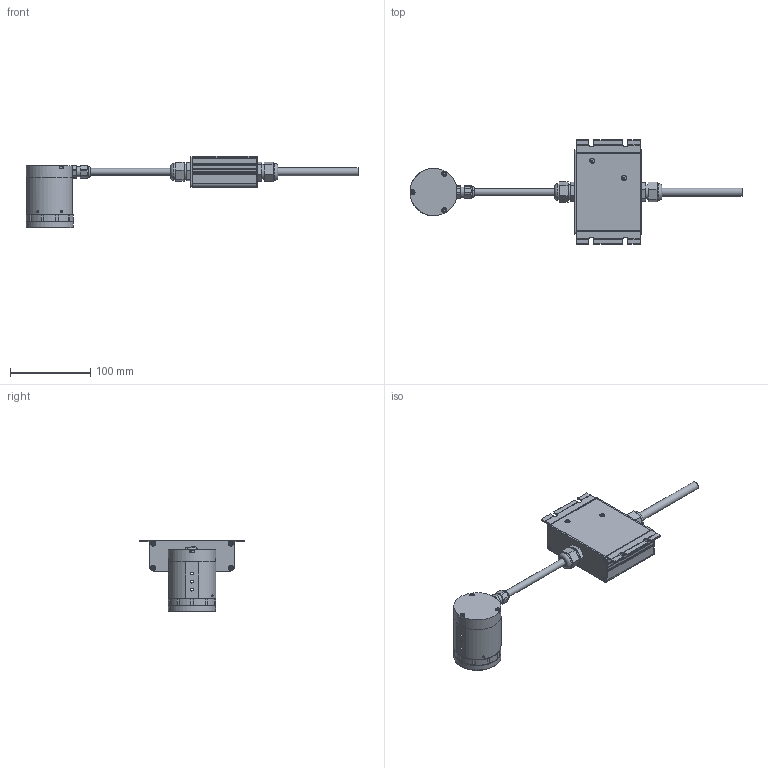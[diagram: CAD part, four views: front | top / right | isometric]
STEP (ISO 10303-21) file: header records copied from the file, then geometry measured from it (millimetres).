
FILE_DESCRIPTION (( 'STEP AP214' ), '1' );
FILE_NAME ('EFFI-LASE-V3-ZZZ-MMM-CCC.STEP', '2021-12-14T14:15:33', ( '' ), ( '' ), 'SwSTEP 2.0', 'SolidWorks 2021', '' );
FILE_SCHEMA (( 'AUTOMOTIVE_DESIGN' ));
Length unit declared in the file: millimetre
Products named in the file (1): EFFI-LASE-V3-ZZZ-MMM-CCC
Bounding box: 414.49 x 130 x 89.4 mm (x, y, z)
Surface area: 85385.2 mm2 (no closed solid volume)
Topology: 0 solids, 37 shells, 517 faces, 1919 edges, 1412 vertices
Faces by surface type: plane 269, cylinder 185, torus 44, cone 16, bspline 3
Full cylindrical faces by diameter (mm): 2.5 x1, 3.3 x6, 5.5 x13, 8.5 x1, 10 x1, 10.9 x1, 11.1 x1, 12.5 x1, 13.8 x1, 18.5 x2, 21 x2, 36 x1, 40.9 x1, 47 x1, 51 x1, 58 x1, 59 x1
Entity records: 26454 total; most frequent: CARTESIAN_POINT 4646, DIRECTION 3537, ORIENTED_EDGE 2854, EDGE_CURVE 1853, VERTEX_POINT 1400, AXIS2_PLACEMENT_3D 1290, LINE 957, VECTOR 957
